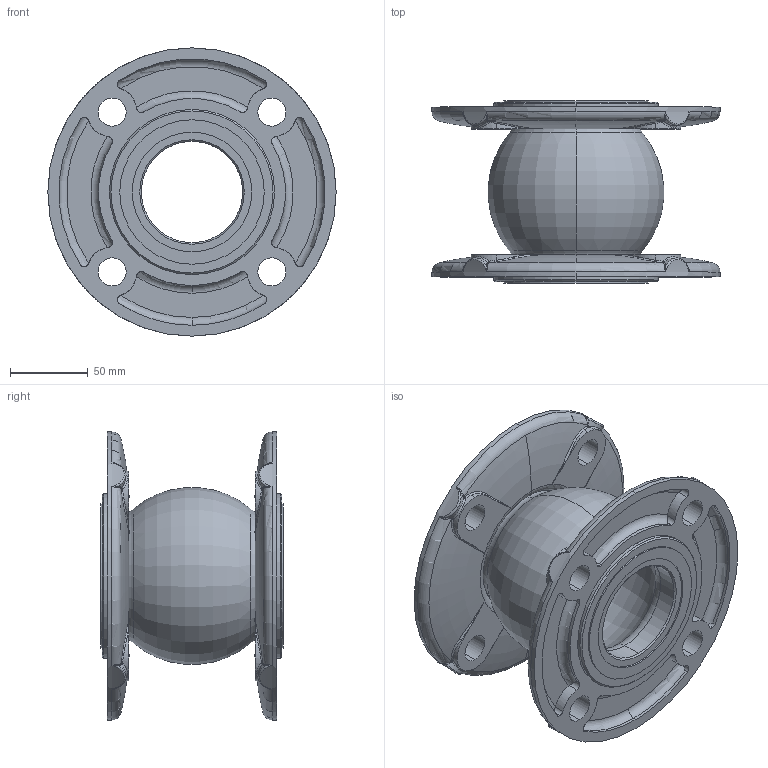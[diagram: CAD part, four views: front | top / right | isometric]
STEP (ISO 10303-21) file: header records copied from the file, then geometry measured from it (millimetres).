
FILE_DESCRIPTION (( 'STEP AP214' ), '1' );
FILE_NAME ('DN65 单球橡胶软接.STEP', '2025-12-26T01:28:19', ( '' ), ( '' ), 'SwSTEP 2.0', 'SolidWorks 2024', '' );
FILE_SCHEMA (( 'AUTOMOTIVE_DESIGN' ));
Length unit declared in the file: millimetre
Products named in the file (3): DN65 单球橡胶软接; DN65新款球铁法兰; DN65 单球橡胶
Assembly tree (3 placements, depth 2):
  DN65 单球橡胶软接
    DN65 单球橡胶
    DN65新款球铁法兰  x2
Bounding box: 185 x 117 x 185 mm (x, y, z)
Volume: 615859.7 mm3; surface area: 211701.9 mm2
Topology: 3 solids, 3 shells, 386 faces, 926 edges, 544 vertices
Faces by surface type: cylinder 148, bspline 96, torus 74, plane 44, sphere 16, cone 8
Entity records: 9500 total; most frequent: CARTESIAN_POINT 4646, ORIENTED_EDGE 1022, DIRECTION 994, EDGE_CURVE 511, AXIS2_PLACEMENT_3D 446, VERTEX_POINT 304, CIRCLE 267, EDGE_LOOP 243
